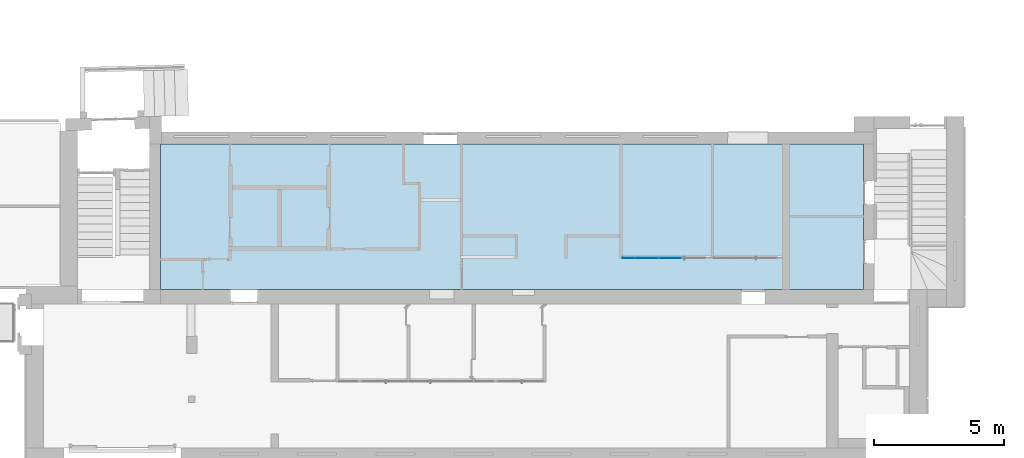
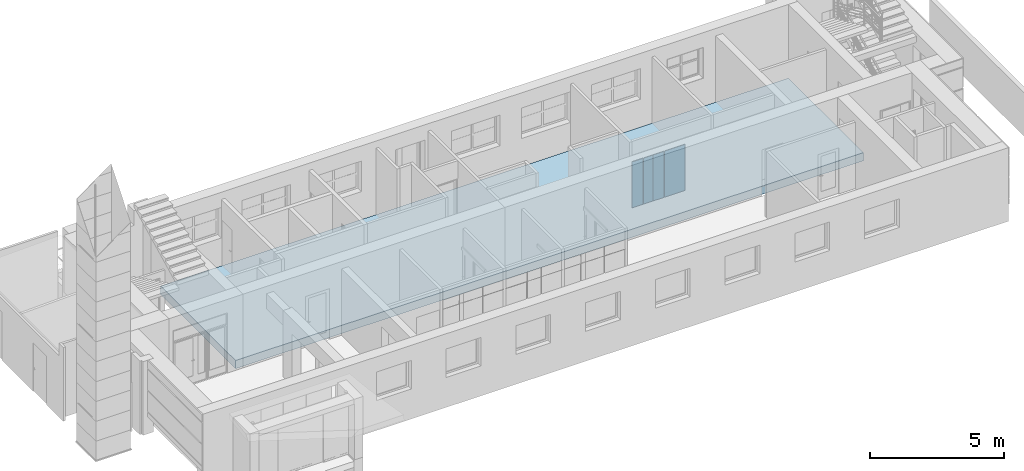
# One storey, part 11 of 49: 4 plates, 1 slab, 1 element without a shape of its own.
"""IFC2X3 building model written with IfcOpenShell, lengths in millimetres."""

from ifc_helpers import new_model, entity, si_unit, converted_unit, derived_unit, direction, frame, origin, origin_2d_with_axis, place, context, subcontext, project, spatial, rectangle, extrude, source, transform, mapped, material, layer, layer_set, layer_usage, type_object, type_shapes, element, aggregate, save


model = new_model("IFC2X3")

# Units and contexts
model_context = context("Model", 3, precision=0.01, world=origin(), true_north=direction((6.12303176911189e-17, 1.0)))
body_context = subcontext(model_context, "Body", "Model", "MODEL_VIEW")
ifc_project = project(units=[si_unit("LENGTHUNIT", "METRE", prefix="MILLI"), si_unit("AREAUNIT", "SQUARE_METRE"), si_unit("VOLUMEUNIT", "CUBIC_METRE"), converted_unit("PLANEANGLEUNIT", "DEGREE", entity("IfcRatioMeasure", 0.0174532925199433), si_unit("PLANEANGLEUNIT", "RADIAN"), dimensions=[0, 0, 0, 0, 0, 0, 0]), si_unit("MASSUNIT", "GRAM", prefix="KILO"), derived_unit("MASSDENSITYUNIT", [(si_unit("MASSUNIT", "GRAM", prefix="KILO"), 1), (si_unit("LENGTHUNIT", "METRE"), -3)]), si_unit("TIMEUNIT", "SECOND"), si_unit("FREQUENCYUNIT", "HERTZ"), si_unit("THERMODYNAMICTEMPERATUREUNIT", "DEGREE_CELSIUS"), derived_unit("THERMALTRANSMITTANCEUNIT", [(si_unit("MASSUNIT", "GRAM", prefix="KILO"), 1), (si_unit("THERMODYNAMICTEMPERATUREUNIT", "KELVIN"), -1), (si_unit("TIMEUNIT", "SECOND"), -3)]), derived_unit("VOLUMETRICFLOWRATEUNIT", [(si_unit("LENGTHUNIT", "METRE"), 3), (si_unit("TIMEUNIT", "SECOND"), -1)]), si_unit("ELECTRICCURRENTUNIT", "AMPERE"), si_unit("ELECTRICVOLTAGEUNIT", "VOLT"), si_unit("POWERUNIT", "WATT"), si_unit("FORCEUNIT", "NEWTON", prefix="KILO"), si_unit("ILLUMINANCEUNIT", "LUX"), si_unit("LUMINOUSFLUXUNIT", "LUMEN"), si_unit("LUMINOUSINTENSITYUNIT", "CANDELA"), derived_unit("USERDEFINED", [(si_unit("MASSUNIT", "GRAM", prefix="KILO"), -1), (si_unit("LENGTHUNIT", "METRE"), -2), (si_unit("TIMEUNIT", "SECOND"), 3), (si_unit("LUMINOUSFLUXUNIT", "LUMEN"), 1)]), derived_unit("LINEARVELOCITYUNIT", [(si_unit("LENGTHUNIT", "METRE"), 1), (si_unit("TIMEUNIT", "SECOND"), -1)]), si_unit("PRESSUREUNIT", "PASCAL"), derived_unit("USERDEFINED", [(si_unit("LENGTHUNIT", "METRE"), -2), (si_unit("MASSUNIT", "GRAM", prefix="KILO"), 1), (si_unit("TIMEUNIT", "SECOND"), -2)])], contexts=[model_context])

# Site, building, storey
site_placement = place(None, frame((-151.875543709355, 2715.0, 0.0)))
site = spatial("IfcSite", under=ifc_project, at=site_placement, Name="Surface", CompositionType="ELEMENT")
building_placement = place(site_placement, origin())
building = spatial("IfcBuilding", under=site, at=building_placement, CompositionType="ELEMENT")
storey_placement = place(building_placement, origin())
storey = spatial("IfcBuildingStorey", under=building, at=storey_placement, Name="1 korrus", CompositionType="ELEMENT", Elevation=3.0969999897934e-10)

# Curtain wall, plates
curtain_wall_type = type_object("IfcCurtainWallType", Name="Curtain Wall:Klaassein KLS-03", PredefinedType="NOTDEFINED")
curtain_wall_placement = place(storey_placement, origin())
curtain_wall = element("IfcCurtainWall", 1, at=curtain_wall_placement, inside=storey, type_object=curtain_wall_type, Name="Curtain Wall:Klaassein KLS-03", ObjectType="Curtain Wall:Klaassein KLS-03")
ifc_material_1 = material(Name="<Unnamed>")
ifc_layer_1 = layer(ifc_material_1, 20.0)
ifc_layer_set_1 = layer_set([ifc_layer_1], Name="Curtain Wall:Klaassein KLS-01")
ifc_layer_usage_1 = layer_usage(ifc_layer_set_1, "AXIS3", "POSITIVE", 0.0)
plate_type_1 = type_object("IfcPlateType", Name="Glazed", PredefinedType="CURTAIN_PANEL", material=ifc_layer_set_1)
shared_shape_1 = source(origin(), body_context, "Body", "SweptSolid", [
    extrude(rectangle(XDim=20.0, YDim=879.999999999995, at=origin_2d_with_axis()), frame((0.0, 0.0, 0.0), z_axis=(0.0, 0.0, 1.0), x_axis=(0.0, 1.0, 0.0)), (0.0, 0.0, 1.0), 2090.0),
])
type_shapes(plate_type_1, [shared_shape_1])
plate_1_placement = place(curtain_wall_placement, frame((24551.2300720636, 7770.0, 0.0)))
plate_1 = element("IfcPlate", 2, at=plate_1_placement, type_object=plate_type_1, material=ifc_layer_usage_1, Name="System Panel:Glazed", ObjectType="Glazed", context=body_context, shape_type="MappedRepresentation", body=[
    mapped(shared_shape_1, transform((0.0, 0.0, 0.0), scale=1.0)),
])
ifc_layer_usage_2 = layer_usage(ifc_layer_set_1, "AXIS3", "POSITIVE", 0.0)
plate_type_2 = type_object("IfcPlateType", Name="Glazed", PredefinedType="CURTAIN_PANEL", material=ifc_layer_set_1)
shared_shape_2 = source(origin(), body_context, "Body", "SweptSolid", [
    extrude(rectangle(XDim=20.0, YDim=476.681620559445, at=origin_2d_with_axis()), frame((0.0, 0.0, 0.0), z_axis=(0.0, 0.0, 1.0), x_axis=(0.0, 1.0, 0.0)), (0.0, 0.0, 1.0), 2090.0),
])
type_shapes(plate_type_2, [shared_shape_2])
plate_2_placement = place(curtain_wall_placement, frame((22952.8892617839, 7770.0, 0.0)))
plate_2 = element("IfcPlate", 3, at=plate_2_placement, type_object=plate_type_2, material=ifc_layer_usage_2, Name="System Panel:Glazed", ObjectType="Glazed", context=body_context, shape_type="MappedRepresentation", body=[
    mapped(shared_shape_2, transform((0.0, 0.0, 0.0), scale=1.0)),
])
ifc_layer_usage_3 = layer_usage(ifc_layer_set_1, "AXIS3", "POSITIVE", 0.0)
plate_type_3 = type_object("IfcPlateType", Name="Glazed", PredefinedType="CURTAIN_PANEL", material=ifc_layer_set_1)
shared_shape_3 = source(origin(), body_context, "Body", "SweptSolid", [
    extrude(rectangle(XDim=20.0, YDim=403.318379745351, at=origin_2d_with_axis()), frame((0.0, 0.0, 0.0), z_axis=(0.0, 0.0, 1.0), x_axis=(0.0, 1.0, 0.0)), (0.0, 0.0, 1.0), 2090.0),
])
type_shapes(plate_type_3, [shared_shape_3])
plate_3_placement = place(curtain_wall_placement, frame((23412.8892619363, 7770.0, 0.0)))
plate_3 = element("IfcPlate", 4, at=plate_3_placement, type_object=plate_type_3, material=ifc_layer_usage_3, Name="System Panel:Glazed", ObjectType="Glazed", context=body_context, shape_type="MappedRepresentation", body=[
    mapped(shared_shape_3, transform((0.0, 0.0, 0.0), scale=1.0)),
])
ifc_layer_usage_4 = layer_usage(ifc_layer_set_1, "AXIS3", "POSITIVE", 0.0)
plate_type_4 = type_object("IfcPlateType", Name="Glazed", PredefinedType="CURTAIN_PANEL", material=ifc_layer_set_1)
shared_shape_4 = source(origin(), body_context, "Body", "SweptSolid", [
    extrude(rectangle(XDim=20.0, YDim=476.681620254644, at=origin_2d_with_axis()), frame((0.0, 0.0, 0.0), z_axis=(0.0, 0.0, 1.0), x_axis=(0.0, 1.0, 0.0)), (0.0, 0.0, 1.0), 2090.0),
])
type_shapes(plate_type_4, [shared_shape_4])
plate_4_placement = place(curtain_wall_placement, frame((23852.8892619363, 7770.0, 0.0)))
plate_4 = element("IfcPlate", 5, at=plate_4_placement, type_object=plate_type_4, material=ifc_layer_usage_4, Name="System Panel:Glazed", ObjectType="Glazed", context=body_context, shape_type="MappedRepresentation", body=[
    mapped(shared_shape_4, transform((0.0, 0.0, 0.0), scale=1.0)),
])
aggregate(curtain_wall, [plate_2, plate_3, plate_4, plate_1])

# Slab
ifc_material_2 = material(Name="Viimistlus_kelder")
ifc_layer_2 = layer(ifc_material_2, 20.0)
ifc_material_3 = material(Name="Betoon")
ifc_layer_3 = layer(ifc_material_3, 100.0)
ifc_material_4 = material(Name="__Soojustus EPS")
ifc_layer_4 = layer(ifc_material_4, 150.0)
ifc_material_5 = material(Name="Aluspinnas")
ifc_layer_5 = layer(ifc_material_5, 100.0)
ifc_layer_set_2 = layer_set([ifc_layer_2, ifc_layer_3, ifc_layer_4, ifc_layer_5], Name="Floor:P-1_Esimese korruse põrand")
ifc_layer_usage_5 = layer_usage(ifc_layer_set_2, "AXIS3", "POSITIVE", 0.0)
slab_placement = place(storey_placement, origin())
element("IfcSlab", 6, at=slab_placement, inside=storey, material=ifc_layer_usage_5, Name="Floor:P-1_Esimese korruse põrand", ObjectType="Floor:P-1_Esimese korruse põrand", PredefinedType="FLOOR", context=body_context, shape_type="SweptSolid", body=[
    extrude(rectangle(XDim=5590.03605078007, YDim=27012.5418693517, at=origin_2d_with_axis()), frame((18466.3453335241, 9354.98197460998, 0.0), z_axis=(0.0, 0.0, -1.0), x_axis=(0.0, 1.0, 0.0)), (0.0, 0.0, 1.0), 370.0),
])

save(model, "model.ifc")
